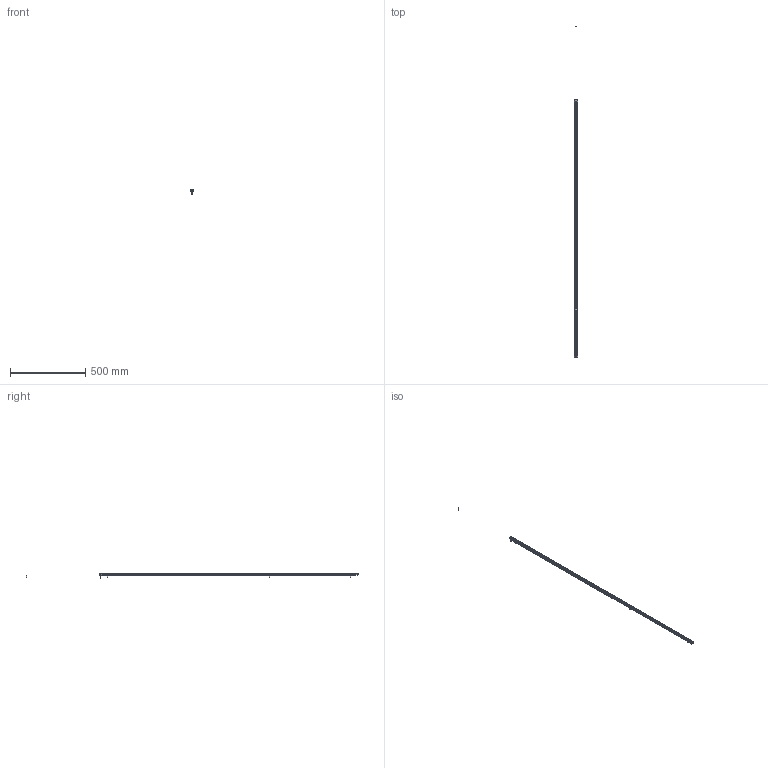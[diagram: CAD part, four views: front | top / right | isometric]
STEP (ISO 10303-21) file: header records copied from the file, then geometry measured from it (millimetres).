
FILE_DESCRIPTION (( 'STEP AP214' ), '1' );
FILE_NAME ('ILGA-B-K1a-1710mm.STEP', '2026-04-24T22:53:19', ( '' ), ( '' ), 'SwSTEP 2.0', 'SolidWorks 2025', '' );
FILE_SCHEMA (( 'AUTOMOTIVE_DESIGN' ));
Length unit declared in the file: millimetre
Products named in the file (1): ILGA-B-K1a-1710mm
Bounding box: 22.4 x 2199.47 x 34.2 mm (x, y, z)
Volume: 129072.6 mm3; surface area: 232300.2 mm2
Topology: 13 solids, 13 shells, 728 faces, 1866 edges, 1142 vertices
Faces by surface type: plane 314, cylinder 270, cone 60, torus 44, bspline 24, sphere 16
Entity records: 30387 total; most frequent: CARTESIAN_POINT 4637, DIRECTION 3846, ORIENTED_EDGE 3644, EDGE_CURVE 1822, AXIS2_PLACEMENT_3D 1439, VERTEX_POINT 1142, LINE 968, VECTOR 968
